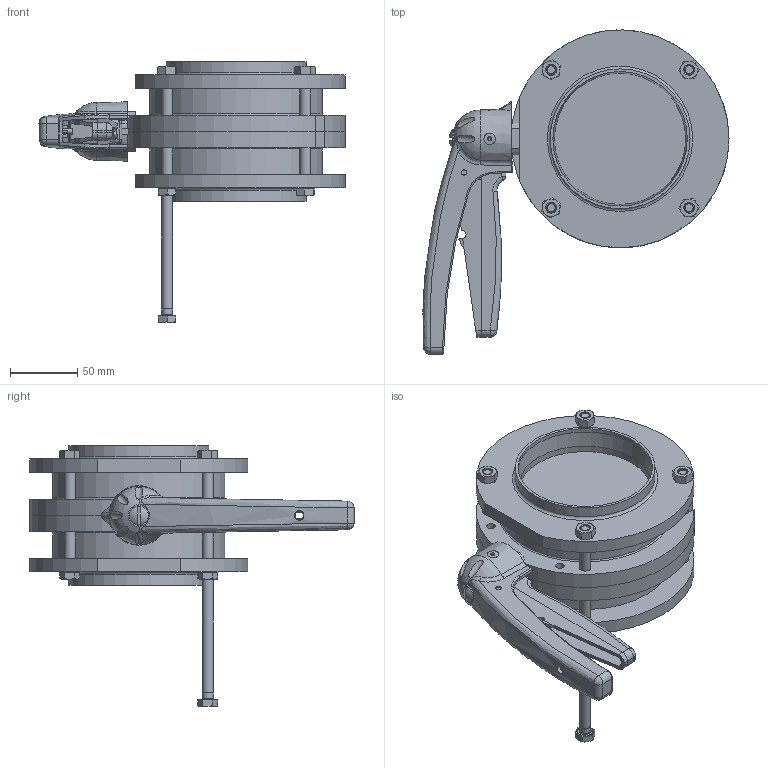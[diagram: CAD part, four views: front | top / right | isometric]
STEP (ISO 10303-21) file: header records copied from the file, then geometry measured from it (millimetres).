
FILE_DESCRIPTION(/* description */ ('VVF VALV.FARF.DN100(104X2) WAF4 316 EPDM LEVA 5POS.'),/* implementation_level */ '2;1');
FILE_NAME(/* name */ 'C:\_DED_PWS\ZIGN-L\DB\B\EBA\BEBAC6100BEAA-00^SAGOMA.step',/* time_stamp */ '2022-09-27T08:43:05+02:00',/* author */ (''),/* organization */ (''),/* preprocessor_version */ 'ST-DEVELOPER v18.1',/* originating_system */ 'Autodesk Inventor 2022',/* authorisation */ '');
FILE_SCHEMA (('CONFIG_CONTROL_DESIGN'));
Length unit declared in the file: millimetre
Products named in the file (6): BEBAC6100BEAA; Maniglia-5-posizioni-nuova-versione finale 01-2008- 25 - - 65; MEZZO-COR-DN100-WAFER-4; FLANGIA-DN104x2-WAFER-4; UNI 5588 - M8; ISO 8765,M8x1,90,8.8
Assembly tree (14 placements, depth 2):
  BEBAC6100BEAA
    Maniglia-5-posizioni-nuova-versione finale 01-2008- 25 - - 65
    FLANGIA-DN104x2-WAFER-4  x2
    MEZZO-COR-DN100-WAFER-4  x2
    UNI 5588 - M8  x4
    ISO 8765,M8x1,90,8.8  x5
Bounding box: 227.54 x 240.98 x 194 mm (x, y, z)
Volume: 1392429 mm3; surface area: 262859.4 mm2
Topology: 14 solids, 15 shells, 673 faces, 1627 edges, 1014 vertices
Faces by surface type: plane 293, cylinder 132, cone 131, bspline 81, torus 18, sphere 18
Full cylindrical faces by diameter (mm): 4 x3, 6 x2, 6.2 x4, 6.5 x1, 6.647 x4, 8 x10, 8.2 x2, 8.5 x10, 13 x1, 14.5 x1, 97.6 x2, 100 x2, 104 x2, 128 x2
Entity records: 23978 total; most frequent: CARTESIAN_POINT 12315, ORIENTED_EDGE 2440, DIRECTION 2127, EDGE_CURVE 1220, AXIS2_PLACEMENT_3D 774, VERTEX_POINT 769, LINE 579, VECTOR 579
